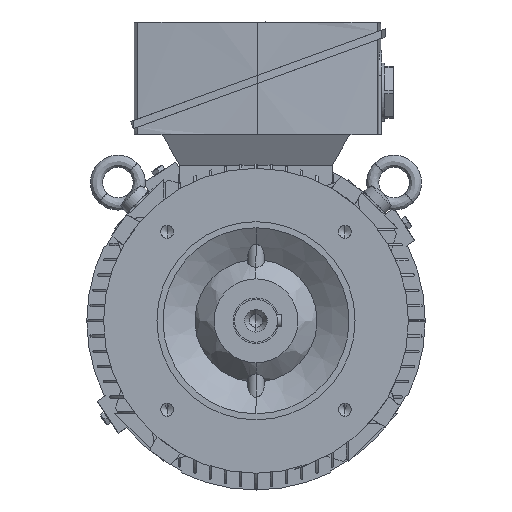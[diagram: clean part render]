
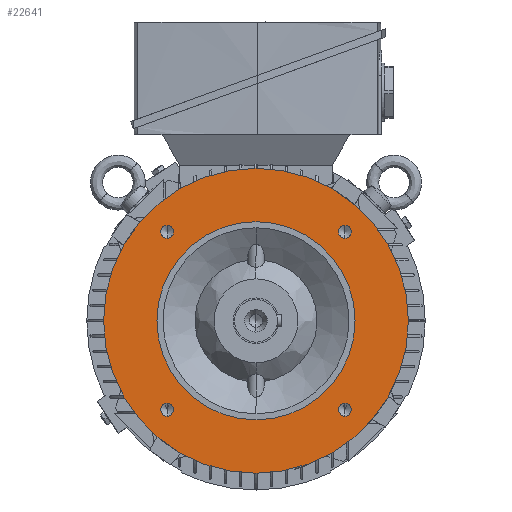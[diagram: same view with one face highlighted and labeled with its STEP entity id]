
A CAD part, left-side view. The second image highlights one B-rep face of the part: STEP entity #22641.
In plain terms, the highlighted planar face has unit normal (-1, 0, 0).
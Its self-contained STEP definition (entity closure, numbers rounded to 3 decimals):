
#1010 = DIRECTION ( 'NONE',  ( 0., 0., -1. ) ) ;
#1018 = AXIS2_PLACEMENT_3D ( 'NONE', #34407, #14067, #37815 ) ;
#1294 = VERTEX_POINT ( 'NONE', #10067 ) ;
#1853 = CARTESIAN_POINT ( 'NONE',  ( -40., 58.336, 54.146 ) ) ;
#2165 = CIRCLE ( 'NONE', #15745, 100. ) ;
#2187 = DIRECTION ( 'NONE',  ( 1., 0., 0. ) ) ;
#2600 = VERTEX_POINT ( 'NONE', #39288 ) ;
#3097 = CARTESIAN_POINT ( 'NONE',  ( -40., 0., -65. ) ) ;
#3419 = VERTEX_POINT ( 'NONE', #20941 ) ;
#3648 = CARTESIAN_POINT ( 'NONE',  ( -40., -58.336, 58.336 ) ) ;
#4123 = DIRECTION ( 'NONE',  ( 1., 0., 0. ) ) ;
#4230 = CARTESIAN_POINT ( 'NONE',  ( -40., 58.336, -58.336 ) ) ;
#4248 = DIRECTION ( 'NONE',  ( 1., 0., 0. ) ) ;
#4319 = FACE_BOUND ( 'NONE', #12995, .T. ) ;
#4320 = CIRCLE ( 'NONE', #35606, 4.19 ) ;
#4424 = CIRCLE ( 'NONE', #13207, 4.19 ) ;
#4576 = CARTESIAN_POINT ( 'NONE',  ( -40., -58.336, -58.336 ) ) ;
#4728 = CIRCLE ( 'NONE', #37799, 4.19 ) ;
#5409 = FACE_BOUND ( 'NONE', #28844, .T. ) ;
#5952 = VERTEX_POINT ( 'NONE', #22193 ) ;
#6457 = CARTESIAN_POINT ( 'NONE',  ( -40., 0., 0. ) ) ;
#6635 = EDGE_CURVE ( 'NONE', #3419, #41841, #4320, .T. ) ;
#7090 = EDGE_CURVE ( 'NONE', #34049, #2600, #2165, .T. ) ;
#7102 = DIRECTION ( 'NONE',  ( 0., 0., -1. ) ) ;
#7688 = DIRECTION ( 'NONE',  ( 0., 0., -1. ) ) ;
#8037 = DIRECTION ( 'NONE',  ( 0., 0., -1. ) ) ;
#8374 = EDGE_CURVE ( 'NONE', #1294, #22144, #19015, .T. ) ;
#9509 = ORIENTED_EDGE ( 'NONE', *, *, #7090, .F. ) ;
#9515 = EDGE_LOOP ( 'NONE', ( #17196, #11010 ) ) ;
#9900 = DIRECTION ( 'NONE',  ( 0., 0., 1. ) ) ;
#10067 = CARTESIAN_POINT ( 'NONE',  ( -40., 0., 65. ) ) ;
#10572 = CARTESIAN_POINT ( 'NONE',  ( -40., 58.336, 58.336 ) ) ;
#10749 = EDGE_CURVE ( 'NONE', #19803, #22462, #43613, .T. ) ;
#11010 = ORIENTED_EDGE ( 'NONE', *, *, #10749, .T. ) ;
#11754 = AXIS2_PLACEMENT_3D ( 'NONE', #24667, #4248, #28069 ) ;
#11986 = ORIENTED_EDGE ( 'NONE', *, *, #41582, .T. ) ;
#12759 = VERTEX_POINT ( 'NONE', #33195 ) ;
#12995 = EDGE_LOOP ( 'NONE', ( #25945, #25643 ) ) ;
#13207 = AXIS2_PLACEMENT_3D ( 'NONE', #13534, #37276, #16930 ) ;
#13412 = FACE_BOUND ( 'NONE', #27182, .T. ) ;
#13534 = CARTESIAN_POINT ( 'NONE',  ( -40., -58.336, -58.336 ) ) ;
#13603 = VERTEX_POINT ( 'NONE', #1853 ) ;
#13643 = AXIS2_PLACEMENT_3D ( 'NONE', #4230, #28055, #7688 ) ;
#13985 = DIRECTION ( 'NONE',  ( 0., 0., -1. ) ) ;
#14067 = DIRECTION ( 'NONE',  ( -1., 0., 0. ) ) ;
#14465 = FACE_OUTER_BOUND ( 'NONE', #37762, .T. ) ;
#14930 = AXIS2_PLACEMENT_3D ( 'NONE', #24530, #4123, #27940 ) ;
#15039 = DIRECTION ( 'NONE',  ( 1., 0., 0. ) ) ;
#15745 = AXIS2_PLACEMENT_3D ( 'NONE', #6457, #30252, #9900 ) ;
#15910 = CIRCLE ( 'NONE', #17906, 65. ) ;
#16049 = CARTESIAN_POINT ( 'NONE',  ( -40., 58.336, -62.526 ) ) ;
#16742 = DIRECTION ( 'NONE',  ( 1., 0., 0. ) ) ;
#16895 = ORIENTED_EDGE ( 'NONE', *, *, #33552, .T. ) ;
#16930 = DIRECTION ( 'NONE',  ( 0., 0., -1. ) ) ;
#17196 = ORIENTED_EDGE ( 'NONE', *, *, #42135, .T. ) ;
#17480 = CARTESIAN_POINT ( 'NONE',  ( -40., 0., -100. ) ) ;
#17906 = AXIS2_PLACEMENT_3D ( 'NONE', #35359, #15039, #38785 ) ;
#19015 = CIRCLE ( 'NONE', #39391, 65. ) ;
#19137 = CARTESIAN_POINT ( 'NONE',  ( -40., -58.336, -62.526 ) ) ;
#19594 = CIRCLE ( 'NONE', #33167, 4.19 ) ;
#19803 = VERTEX_POINT ( 'NONE', #35430 ) ;
#19856 = AXIS2_PLACEMENT_3D ( 'NONE', #22569, #2187, #26043 ) ;
#20941 = CARTESIAN_POINT ( 'NONE',  ( -40., -58.336, 62.526 ) ) ;
#21418 = DIRECTION ( 'NONE',  ( 1., 0., 0. ) ) ;
#22144 = VERTEX_POINT ( 'NONE', #3097 ) ;
#22193 = CARTESIAN_POINT ( 'NONE',  ( -40., -58.336, -54.146 ) ) ;
#22433 = FACE_BOUND ( 'NONE', #9515, .T. ) ;
#22462 = VERTEX_POINT ( 'NONE', #16049 ) ;
#22569 = CARTESIAN_POINT ( 'NONE',  ( -40., 0., 0. ) ) ;
#22641 = ADVANCED_FACE ( 'NONE', ( #31472, #14465, #5409, #22433, #13412, #4319 ), #37674, .T. ) ;
#22846 = ORIENTED_EDGE ( 'NONE', *, *, #8374, .T. ) ;
#23825 = AXIS2_PLACEMENT_3D ( 'NONE', #10572, #34322, #13985 ) ;
#24530 = CARTESIAN_POINT ( 'NONE',  ( -40., -58.336, 58.336 ) ) ;
#24667 = CARTESIAN_POINT ( 'NONE',  ( -40., 58.336, 58.336 ) ) ;
#25570 = EDGE_CURVE ( 'NONE', #5952, #31426, #4424, .T. ) ;
#25643 = ORIENTED_EDGE ( 'NONE', *, *, #6635, .T. ) ;
#25945 = ORIENTED_EDGE ( 'NONE', *, *, #33479, .T. ) ;
#26043 = DIRECTION ( 'NONE',  ( 0., 0., 1. ) ) ;
#27182 = EDGE_LOOP ( 'NONE', ( #16895, #41411 ) ) ;
#27461 = DIRECTION ( 'NONE',  ( 1., 0., 0. ) ) ;
#27940 = DIRECTION ( 'NONE',  ( 0., 0., -1. ) ) ;
#28055 = DIRECTION ( 'NONE',  ( 1., 0., 0. ) ) ;
#28069 = DIRECTION ( 'NONE',  ( 0., 0., -1. ) ) ;
#28346 = ORIENTED_EDGE ( 'NONE', *, *, #43905, .T. ) ;
#28379 = DIRECTION ( 'NONE',  ( 1., 0., 0. ) ) ;
#28844 = EDGE_LOOP ( 'NONE', ( #28346, #11986 ) ) ;
#30252 = DIRECTION ( 'NONE',  ( 1., 0., 0. ) ) ;
#30563 = CIRCLE ( 'NONE', #11754, 4.19 ) ;
#30589 = EDGE_LOOP ( 'NONE', ( #22846, #33280 ) ) ;
#31426 = VERTEX_POINT ( 'NONE', #19137 ) ;
#31472 = FACE_BOUND ( 'NONE', #30589, .T. ) ;
#33167 = AXIS2_PLACEMENT_3D ( 'NONE', #4576, #28379, #8037 ) ;
#33195 = CARTESIAN_POINT ( 'NONE',  ( -40., 58.336, 62.526 ) ) ;
#33280 = ORIENTED_EDGE ( 'NONE', *, *, #36500, .T. ) ;
#33479 = EDGE_CURVE ( 'NONE', #41841, #3419, #34274, .T. ) ;
#33552 = EDGE_CURVE ( 'NONE', #31426, #5952, #19594, .T. ) ;
#34049 = VERTEX_POINT ( 'NONE', #17480 ) ;
#34274 = CIRCLE ( 'NONE', #14930, 4.19 ) ;
#34322 = DIRECTION ( 'NONE',  ( 1., 0., 0. ) ) ;
#34407 = CARTESIAN_POINT ( 'NONE',  ( -40., 0., 82.5 ) ) ;
#35359 = CARTESIAN_POINT ( 'NONE',  ( -40., 0., 0. ) ) ;
#35430 = CARTESIAN_POINT ( 'NONE',  ( -40., 58.336, -54.146 ) ) ;
#35606 = AXIS2_PLACEMENT_3D ( 'NONE', #3648, #27461, #7102 ) ;
#36500 = EDGE_CURVE ( 'NONE', #22144, #1294, #15910, .T. ) ;
#37091 = CARTESIAN_POINT ( 'NONE',  ( -40., 0., 0. ) ) ;
#37276 = DIRECTION ( 'NONE',  ( 1., 0., 0. ) ) ;
#37674 = PLANE ( 'NONE',  #1018 ) ;
#37762 = EDGE_LOOP ( 'NONE', ( #38502, #9509 ) ) ;
#37799 = AXIS2_PLACEMENT_3D ( 'NONE', #41759, #21418, #1010 ) ;
#37815 = DIRECTION ( 'NONE',  ( 0., 0., 1. ) ) ;
#38336 = CIRCLE ( 'NONE', #23825, 4.19 ) ;
#38502 = ORIENTED_EDGE ( 'NONE', *, *, #41918, .F. ) ;
#38785 = DIRECTION ( 'NONE',  ( 0., 0., 1. ) ) ;
#39288 = CARTESIAN_POINT ( 'NONE',  ( -40., 0., 100. ) ) ;
#39357 = CARTESIAN_POINT ( 'NONE',  ( -40., -58.336, 54.146 ) ) ;
#39391 = AXIS2_PLACEMENT_3D ( 'NONE', #37091, #16742, #40512 ) ;
#39887 = CIRCLE ( 'NONE', #19856, 100. ) ;
#40512 = DIRECTION ( 'NONE',  ( 0., 0., 1. ) ) ;
#41411 = ORIENTED_EDGE ( 'NONE', *, *, #25570, .T. ) ;
#41582 = EDGE_CURVE ( 'NONE', #12759, #13603, #38336, .T. ) ;
#41759 = CARTESIAN_POINT ( 'NONE',  ( -40., 58.336, -58.336 ) ) ;
#41841 = VERTEX_POINT ( 'NONE', #39357 ) ;
#41918 = EDGE_CURVE ( 'NONE', #2600, #34049, #39887, .T. ) ;
#42135 = EDGE_CURVE ( 'NONE', #22462, #19803, #4728, .T. ) ;
#43613 = CIRCLE ( 'NONE', #13643, 4.19 ) ;
#43905 = EDGE_CURVE ( 'NONE', #13603, #12759, #30563, .T. ) ;
